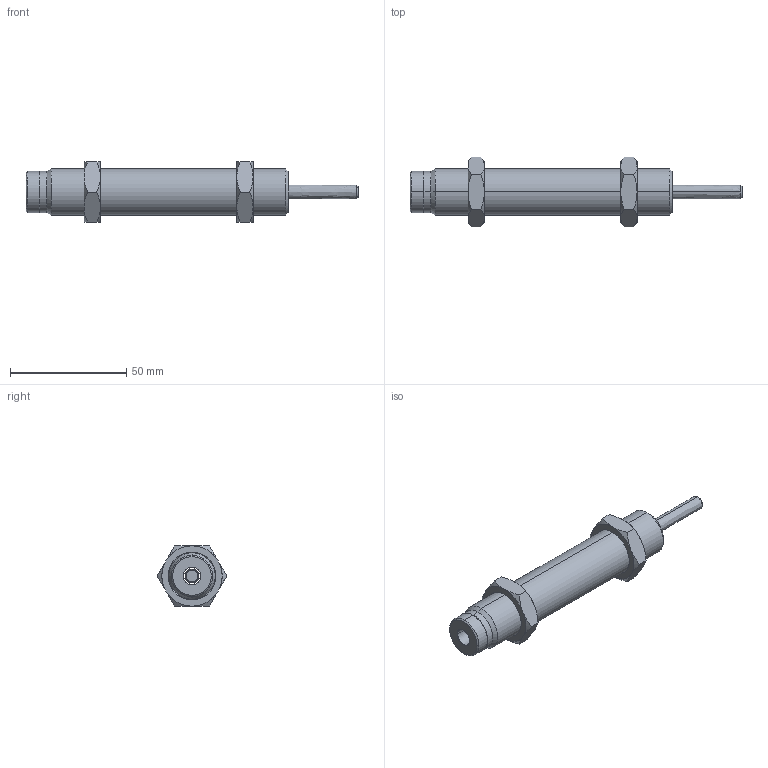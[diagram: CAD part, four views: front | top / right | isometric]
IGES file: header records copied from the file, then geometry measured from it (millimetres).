
Start section: SolidWorks IGES file using analytic representation for surfaces
Global section: file name: D:\IGS跡宒\AC2030-N.IGS,1; native system: 5HSolidWorks 2013; preprocessor: SolidWorks 2013; author: Administrator; date: 160406.152122; units: inch
Bounding box: 143 x 30.02 x 26 mm (x, y, z)
Surface area: 11841.6 mm2 (no closed solid volume)
Topology: 0 solids, 0 shells, 87 faces, 1312 edges, 1312 vertices
Faces by surface type: revolution 66, bspline 21
